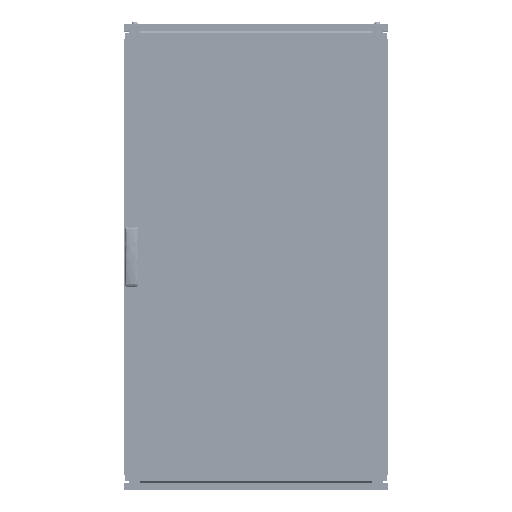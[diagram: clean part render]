
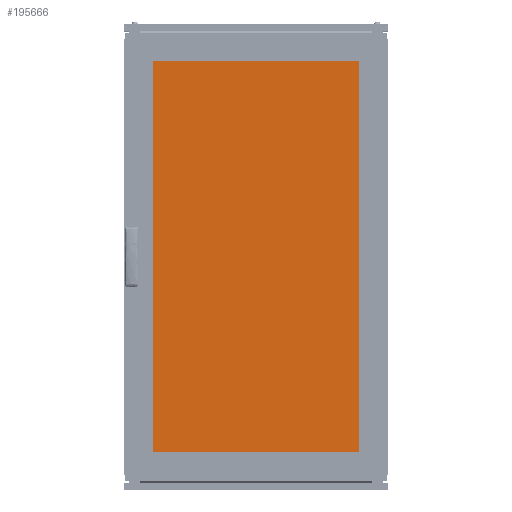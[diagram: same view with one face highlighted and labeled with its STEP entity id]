
A CAD part, top view. The second image highlights one B-rep face of the part: STEP entity #195666.
In plain terms, the highlighted planar face has unit normal (0, 0, 1).
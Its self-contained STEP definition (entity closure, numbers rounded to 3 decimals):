
#10533 = DIRECTION ( 'NONE',  ( 0., -1., 0. ) ) ;
#13833 = EDGE_LOOP ( 'NONE', ( #135555, #180009, #37125, #49067 ) ) ;
#26786 = CARTESIAN_POINT ( 'NONE',  ( -330., -610., 5. ) ) ;
#28698 = CARTESIAN_POINT ( 'NONE',  ( -330., 610., 5. ) ) ;
#37125 = ORIENTED_EDGE ( 'NONE', *, *, #78651, .T. ) ;
#38026 = DIRECTION ( 'NONE',  ( 0., 1., 0. ) ) ;
#47717 = DIRECTION ( 'NONE',  ( 0., -1., 0. ) ) ;
#49067 = ORIENTED_EDGE ( 'NONE', *, *, #53928, .T. ) ;
#53928 = EDGE_CURVE ( 'NONE', #89192, #194366, #134428, .T. ) ;
#55819 = CARTESIAN_POINT ( 'NONE',  ( 0., 0., 5. ) ) ;
#62280 = VERTEX_POINT ( 'NONE', #89604 ) ;
#78651 = EDGE_CURVE ( 'NONE', #62280, #89192, #185595, .T. ) ;
#82456 = VECTOR ( 'NONE', #47717, 1000. ) ;
#86305 = LINE ( 'NONE', #176876, #121595 ) ;
#87265 = EDGE_CURVE ( 'NONE', #172548, #62280, #105180, .T. ) ;
#89192 = VERTEX_POINT ( 'NONE', #127373 ) ;
#89604 = CARTESIAN_POINT ( 'NONE',  ( -330., 610., 5. ) ) ;
#89753 = AXIS2_PLACEMENT_3D ( 'NONE', #55819, #148399, #10533 ) ;
#93514 = EDGE_CURVE ( 'NONE', #194366, #172548, #86305, .T. ) ;
#97780 = VECTOR ( 'NONE', #152422, 1000. ) ;
#99183 = CARTESIAN_POINT ( 'NONE',  ( 330., 610., 5. ) ) ;
#102159 = VECTOR ( 'NONE', #105268, 1000. ) ;
#102414 = CARTESIAN_POINT ( 'NONE',  ( 330., -610., 5. ) ) ;
#105180 = LINE ( 'NONE', #28698, #97780 ) ;
#105268 = DIRECTION ( 'NONE',  ( 1., 0., 0. ) ) ;
#121595 = VECTOR ( 'NONE', #38026, 1000. ) ;
#123235 = CARTESIAN_POINT ( 'NONE',  ( -330., -610., 5. ) ) ;
#127373 = CARTESIAN_POINT ( 'NONE',  ( -330., -610., 5. ) ) ;
#132299 = FACE_OUTER_BOUND ( 'NONE', #13833, .T. ) ;
#134428 = LINE ( 'NONE', #26786, #102159 ) ;
#135555 = ORIENTED_EDGE ( 'NONE', *, *, #93514, .T. ) ;
#148399 = DIRECTION ( 'NONE',  ( 0., 0., -1. ) ) ;
#152422 = DIRECTION ( 'NONE',  ( -1., 0., 0. ) ) ;
#172548 = VERTEX_POINT ( 'NONE', #99183 ) ;
#176876 = CARTESIAN_POINT ( 'NONE',  ( 330., -610., 5. ) ) ;
#180009 = ORIENTED_EDGE ( 'NONE', *, *, #87265, .T. ) ;
#185595 = LINE ( 'NONE', #123235, #82456 ) ;
#193667 = PLANE ( 'NONE',  #89753 ) ;
#194366 = VERTEX_POINT ( 'NONE', #102414 ) ;
#195666 = ADVANCED_FACE ( 'NONE', ( #132299 ), #193667, .F. ) ;
